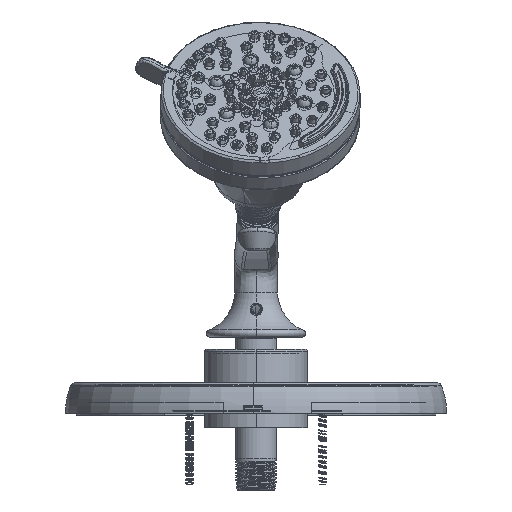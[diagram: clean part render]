
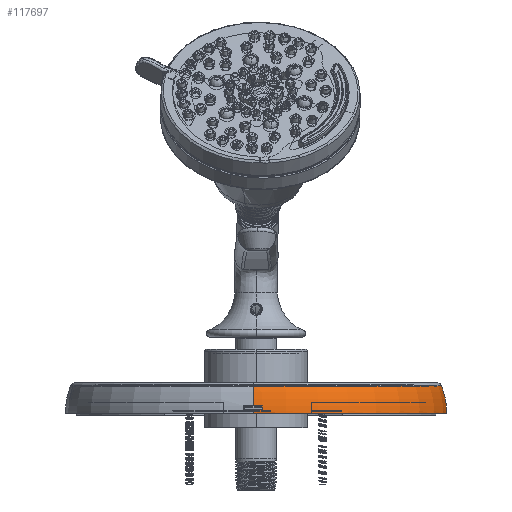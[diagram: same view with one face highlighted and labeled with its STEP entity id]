
A CAD part, front view. The second image highlights one B-rep face of the part: STEP entity #117697.
In plain terms, the highlighted toroidal (fillet/blend) face has major radius 57.353 mm and minor radius 38.1 mm.
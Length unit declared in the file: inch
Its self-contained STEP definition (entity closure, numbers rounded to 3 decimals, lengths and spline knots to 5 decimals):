
#973 = DIRECTION ( 'NONE',  ( 0., 0., -1. ) ) ;
#1394 = B_SPLINE_CURVE_WITH_KNOTS ( 'NONE', 3,
 ( #104072, #122979, #84488, #122329, #33634, #34907 ),
 .UNSPECIFIED., .F., .F.,
 ( 4, 2, 4 ),
 ( 0.23843, 0.23893, 0.23943 ),
 .UNSPECIFIED. ) ;
#2136 = CARTESIAN_POINT ( 'NONE',  ( -0.03596, 7.74229, 0. ) ) ;
#2175 = CIRCLE ( 'NONE', #39677, 3.758 ) ;
#2813 = CARTESIAN_POINT ( 'NONE',  ( 0.18479, 13.75292, 0.04 ) ) ;
#3179 = DIRECTION ( 'NONE',  ( 0., 0., -1. ) ) ;
#3563 = EDGE_CURVE ( 'NONE', #48701, #4634, #79116, .T. ) ;
#4634 = VERTEX_POINT ( 'NONE', #87120 ) ;
#5129 = CARTESIAN_POINT ( 'NONE',  ( 0.18479, 13.75311, 0.03218 ) ) ;
#6211 = EDGE_CURVE ( 'NONE', #34880, #68417, #91790, .T. ) ;
#7474 = AXIS2_PLACEMENT_3D ( 'NONE', #108614, #97521, #117767 ) ;
#8032 = ORIENTED_EDGE ( 'NONE', *, *, #17856, .F. ) ;
#8316 = B_SPLINE_CURVE_WITH_KNOTS ( 'NONE', 3,
 ( #103632, #5129, #124452, #85330, #54044 ),
 .UNSPECIFIED., .F., .F.,
 ( 4, 1, 4 ),
 ( 0.00004, 0.00016, 0.00027 ),
 .UNSPECIFIED. ) ;
#9363 = DIRECTION ( 'NONE',  ( 0.016, 1., 0. ) ) ;
#9729 = CARTESIAN_POINT ( 'NONE',  ( -0.05972, 6.25051, 0.155 ) ) ;
#9850 = CARTESIAN_POINT ( 'NONE',  ( -0.05981, 6.24489, 0.085 ) ) ;
#11032 = DIRECTION ( 'NONE',  ( -0.016, -1., 0. ) ) ;
#11607 = VERTEX_POINT ( 'NONE', #9729 ) ;
#12098 = ORIENTED_EDGE ( 'NONE', *, *, #108747, .F. ) ;
#12185 = CIRCLE ( 'NONE', #93458, 1.5 ) ;
#13232 = CARTESIAN_POINT ( 'NONE',  ( 0.22476, 13.7506, 0.04529 ) ) ;
#13711 = CARTESIAN_POINT ( 'NONE',  ( 0.12032, 6.25196, 0.155 ) ) ;
#14277 = B_SPLINE_CURVE_WITH_KNOTS ( 'NONE', 3,
 ( #2813, #82346, #43881, #93411, #92774, #64065, #33434, #15173, #13232, #83649 ),
 .UNSPECIFIED., .F., .F.,
 ( 4, 2, 2, 2, 4 ),
 ( 0., 0.0004, 0.00079, 0.00119, 0.00159 ),
 .UNSPECIFIED. ) ;
#14624 = CARTESIAN_POINT ( 'NONE',  ( 0.12024, 6.24634, 0.085 ) ) ;
#15173 = CARTESIAN_POINT ( 'NONE',  ( 0.22262, 13.75056, 0.05043 ) ) ;
#17198 = CARTESIAN_POINT ( 'NONE',  ( 0., 10., 0. ) ) ;
#17665 = CARTESIAN_POINT ( 'NONE',  ( 0.12032, 6.25196, 0.155 ) ) ;
#17856 = EDGE_CURVE ( 'NONE', #33509, #23369, #1394, .T. ) ;
#21069 = FACE_OUTER_BOUND ( 'NONE', #97133, .T. ) ;
#21231 = EDGE_CURVE ( 'NONE', #37808, #68417, #101906, .T. ) ;
#23369 = VERTEX_POINT ( 'NONE', #70156 ) ;
#31862 = ORIENTED_EDGE ( 'NONE', *, *, #42176, .T. ) ;
#32148 = EDGE_CURVE ( 'NONE', #47185, #77062, #107245, .T. ) ;
#32764 = CARTESIAN_POINT ( 'NONE',  ( 0., 10., 0. ) ) ;
#33273 = CARTESIAN_POINT ( 'NONE',  ( 0.12024, 6.24634, 0.085 ) ) ;
#33434 = CARTESIAN_POINT ( 'NONE',  ( 0.21515, 13.75072, 0.05789 ) ) ;
#33509 = VERTEX_POINT ( 'NONE', #78283 ) ;
#33634 = CARTESIAN_POINT ( 'NONE',  ( 0.22477, 13.75127, 0.00666 ) ) ;
#34122 = AXIS2_PLACEMENT_3D ( 'NONE', #72962, #3179, #11032 ) ;
#34880 = VERTEX_POINT ( 'NONE', #67616 ) ;
#34907 = CARTESIAN_POINT ( 'NONE',  ( 0.22477, 13.75127, 0. ) ) ;
#34993 = DIRECTION ( 'NONE',  ( 0.016, 1., 0. ) ) ;
#36622 = AXIS2_PLACEMENT_3D ( 'NONE', #97514, #973, #89667 ) ;
#36740 = DIRECTION ( 'NONE',  ( 0.016, 1., 0. ) ) ;
#36838 = CARTESIAN_POINT ( 'NONE',  ( 0.03596, 12.25771, 0. ) ) ;
#37808 = VERTEX_POINT ( 'NONE', #119754 ) ;
#39246 = VERTEX_POINT ( 'NONE', #101174 ) ;
#39501 = EDGE_CURVE ( 'NONE', #77062, #48701, #94541, .T. ) ;
#39542 = ORIENTED_EDGE ( 'NONE', *, *, #3563, .T. ) ;
#39677 = AXIS2_PLACEMENT_3D ( 'NONE', #17198, #98689, #36740 ) ;
#40079 = ORIENTED_EDGE ( 'NONE', *, *, #57410, .F. ) ;
#40168 = CIRCLE ( 'NONE', #36622, 3.65177 ) ;
#41230 = ORIENTED_EDGE ( 'NONE', *, *, #39501, .T. ) ;
#42176 = EDGE_CURVE ( 'NONE', #34880, #39246, #40168, .T. ) ;
#43535 = AXIS2_PLACEMENT_3D ( 'NONE', #46346, #55465, #126520 ) ;
#43881 = CARTESIAN_POINT ( 'NONE',  ( 0.18695, 13.7525, 0.05045 ) ) ;
#45840 = VERTEX_POINT ( 'NONE', #47943 ) ;
#46346 = CARTESIAN_POINT ( 'NONE',  ( 0., 10., 0.03061 ) ) ;
#47185 = VERTEX_POINT ( 'NONE', #17665 ) ;
#47943 = CARTESIAN_POINT ( 'NONE',  ( 0.18479, 13.75292, 0.04 ) ) ;
#48044 = ORIENTED_EDGE ( 'NONE', *, *, #21231, .T. ) ;
#48476 = EDGE_CURVE ( 'NONE', #45840, #33509, #14277, .T. ) ;
#48701 = VERTEX_POINT ( 'NONE', #9850 ) ;
#50182 = ORIENTED_EDGE ( 'NONE', *, *, #32148, .T. ) ;
#51704 = DIRECTION ( 'NONE',  ( 0., 0., -1. ) ) ;
#53290 = DIRECTION ( 'NONE',  ( 1., -0.016, 0. ) ) ;
#53294 = CIRCLE ( 'NONE', #7474, 3.74997 ) ;
#53379 = CARTESIAN_POINT ( 'NONE',  ( 0.05984, 13.75721, 0.03061 ) ) ;
#54044 = CARTESIAN_POINT ( 'NONE',  ( 0.18479, 13.75292, 0.04 ) ) ;
#55465 = DIRECTION ( 'NONE',  ( 0., 0., 1. ) ) ;
#56045 = CARTESIAN_POINT ( 'NONE',  ( 0.12025, 6.247, 0.09672 ) ) ;
#57410 = EDGE_CURVE ( 'NONE', #23369, #4634, #2175, .T. ) ;
#64065 = CARTESIAN_POINT ( 'NONE',  ( 0.20995, 13.75093, 0.06001 ) ) ;
#67616 = CARTESIAN_POINT ( 'NONE',  ( 0.05816, 13.65131, 0.55443 ) ) ;
#68417 = VERTEX_POINT ( 'NONE', #53379 ) ;
#70156 = CARTESIAN_POINT ( 'NONE',  ( 0.22477, 13.75127, 0. ) ) ;
#70945 = AXIS2_PLACEMENT_3D ( 'NONE', #36838, #116421, #94286 ) ;
#72962 = CARTESIAN_POINT ( 'NONE',  ( 0., 10., 0.085 ) ) ;
#73786 = AXIS2_PLACEMENT_3D ( 'NONE', #32764, #51704, #92134 ) ;
#77062 = VERTEX_POINT ( 'NONE', #14624 ) ;
#78283 = CARTESIAN_POINT ( 'NONE',  ( 0.22476, 13.75074, 0.04 ) ) ;
#79116 = CIRCLE ( 'NONE', #122895, 1.5 ) ;
#82346 = CARTESIAN_POINT ( 'NONE',  ( 0.18479, 13.75278, 0.04529 ) ) ;
#83649 = CARTESIAN_POINT ( 'NONE',  ( 0.22476, 13.75074, 0.04 ) ) ;
#84488 = CARTESIAN_POINT ( 'NONE',  ( 0.22477, 13.75105, 0.02665 ) ) ;
#85330 = CARTESIAN_POINT ( 'NONE',  ( 0.18479, 13.75296, 0.03844 ) ) ;
#87120 = CARTESIAN_POINT ( 'NONE',  ( -0.05985, 6.24248, 0. ) ) ;
#89667 = DIRECTION ( 'NONE',  ( 0.016, 1., 0. ) ) ;
#91790 = CIRCLE ( 'NONE', #70945, 1.5 ) ;
#92134 = DIRECTION ( 'NONE',  ( 0.016, 1., 0. ) ) ;
#92774 = CARTESIAN_POINT ( 'NONE',  ( 0.19953, 13.7515, 0.05999 ) ) ;
#93260 = CARTESIAN_POINT ( 'NONE',  ( 0.12027, 6.24861, 0.12011 ) ) ;
#93411 = CARTESIAN_POINT ( 'NONE',  ( 0.19432, 13.75186, 0.05783 ) ) ;
#93458 = AXIS2_PLACEMENT_3D ( 'NONE', #104166, #53290, #34993 ) ;
#93510 = EDGE_CURVE ( 'NONE', #39246, #11607, #12185, .T. ) ;
#94286 = DIRECTION ( 'NONE',  ( -0.016, -1., 0. ) ) ;
#94541 = CIRCLE ( 'NONE', #34122, 3.75559 ) ;
#97133 = EDGE_LOOP ( 'NONE', ( #31862, #128838, #126790, #50182, #41230, #39542, #40079, #8032, #121543, #12098, #48044, #111387 ) ) ;
#97514 = CARTESIAN_POINT ( 'NONE',  ( 0., 10., 0.55443 ) ) ;
#97521 = DIRECTION ( 'NONE',  ( 0., 0., 1. ) ) ;
#98689 = DIRECTION ( 'NONE',  ( 0., 0., -1. ) ) ;
#98707 = DIRECTION ( 'NONE',  ( 1., -0.016, 0. ) ) ;
#101174 = CARTESIAN_POINT ( 'NONE',  ( -0.05816, 6.34869, 0.55443 ) ) ;
#101906 = CIRCLE ( 'NONE', #43535, 3.75769 ) ;
#103632 = CARTESIAN_POINT ( 'NONE',  ( 0.1848, 13.75314, 0.03061 ) ) ;
#104072 = CARTESIAN_POINT ( 'NONE',  ( 0.22476, 13.75074, 0.04 ) ) ;
#104166 = CARTESIAN_POINT ( 'NONE',  ( -0.03596, 7.74229, 0. ) ) ;
#107245 = B_SPLINE_CURVE_WITH_KNOTS ( 'NONE', 3,
 ( #13711, #114797, #93260, #56045, #33273 ),
 .UNSPECIFIED., .F., .F.,
 ( 4, 1, 4 ),
 ( 0.11257, 0.11346, 0.11434 ),
 .UNSPECIFIED. ) ;
#108614 = CARTESIAN_POINT ( 'NONE',  ( 0., 10., 0.155 ) ) ;
#108747 = EDGE_CURVE ( 'NONE', #37808, #45840, #8316, .T. ) ;
#111387 = ORIENTED_EDGE ( 'NONE', *, *, #6211, .F. ) ;
#114797 = CARTESIAN_POINT ( 'NONE',  ( 0.12031, 6.25075, 0.14339 ) ) ;
#115496 = TOROIDAL_SURFACE ( 'NONE', #73786, 2.258, 1.5 ) ;
#116421 = DIRECTION ( 'NONE',  ( -1., 0.016, 0. ) ) ;
#117697 = ADVANCED_FACE ( 'NONE', ( #21069 ), #115496, .T. ) ;
#117767 = DIRECTION ( 'NONE',  ( 0.016, 1., 0. ) ) ;
#119754 = CARTESIAN_POINT ( 'NONE',  ( 0.1848, 13.75314, 0.03061 ) ) ;
#121026 = EDGE_CURVE ( 'NONE', #11607, #47185, #53294, .T. ) ;
#121543 = ORIENTED_EDGE ( 'NONE', *, *, #48476, .F. ) ;
#122329 = CARTESIAN_POINT ( 'NONE',  ( 0.22477, 13.75123, 0.01332 ) ) ;
#122895 = AXIS2_PLACEMENT_3D ( 'NONE', #2136, #98707, #9363 ) ;
#122979 = CARTESIAN_POINT ( 'NONE',  ( 0.22476, 13.75092, 0.03333 ) ) ;
#124452 = CARTESIAN_POINT ( 'NONE',  ( 0.18479, 13.75304, 0.03531 ) ) ;
#126520 = DIRECTION ( 'NONE',  ( 0.016, 1., 0. ) ) ;
#126790 = ORIENTED_EDGE ( 'NONE', *, *, #121026, .T. ) ;
#128838 = ORIENTED_EDGE ( 'NONE', *, *, #93510, .T. ) ;
